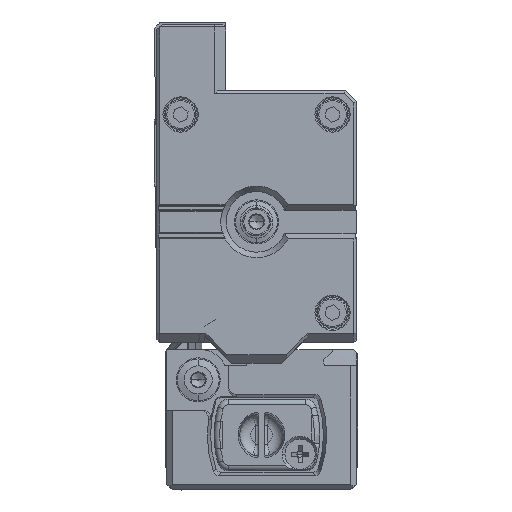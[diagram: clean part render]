
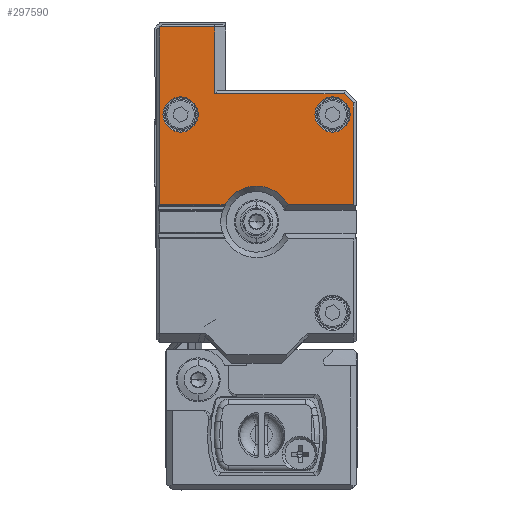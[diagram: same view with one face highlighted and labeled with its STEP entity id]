
A CAD part, left-side view. The second image highlights one B-rep face of the part: STEP entity #297590.
In plain terms, the highlighted planar face has unit normal (-1, 0, 0).
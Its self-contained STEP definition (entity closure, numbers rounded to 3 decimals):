
#291840=CARTESIAN_POINT('',(516.911,-28.8,
-61.394));
#291850=VERTEX_POINT('',#291840);
#291880=CARTESIAN_POINT('',(516.911,-28.8,
0.464));
#291890=DIRECTION('',(0.,0.,1.));
#291900=VECTOR('',#291890,1.);
#291910=LINE('',#291880,#291900);
#291920=CARTESIAN_POINT('',(516.911,-28.8,
-79.876));
#291930=VERTEX_POINT('',#291920);
#291940=EDGE_CURVE('',#291930,#291850,#291910,.T.);
#292530=CARTESIAN_POINT('',(516.911,-54.,
-81.583));
#292540=VERTEX_POINT('',#292530);
#292570=CARTESIAN_POINT('',(516.911,-54.,
-88.233));
#292580=DIRECTION('',(0.,0.,1.));
#292590=VECTOR('',#292580,1.);
#292600=LINE('',#292570,#292590);
#292610=CARTESIAN_POINT('',(516.911,-54.,
-93.683));
#292620=VERTEX_POINT('',#292610);
#292630=EDGE_CURVE('',#292620,#292540,#292600,.T.);
#293830=CARTESIAN_POINT('',(516.911,-30.507,
-81.583));
#293840=VERTEX_POINT('',#293830);
#293870=CARTESIAN_POINT('',(516.911,7.15,
-81.583));
#293880=DIRECTION('',(0.,1.,0.));
#293890=VECTOR('',#293880,1.);
#293900=LINE('',#293870,#293890);
#293910=EDGE_CURVE('',#292540,#293840,#293900,.T.);
#294110=CARTESIAN_POINT('',(516.911,-29.654,
-80.73));
#294120=DIRECTION('',(0.,0.707,
0.707));
#294130=VECTOR('',#294120,1.);
#294140=LINE('',#294110,#294130);
#294150=EDGE_CURVE('',#293840,#291930,#294140,.T.);
#296600=CARTESIAN_POINT('',(516.911,-64.,
-93.683));
#296610=VERTEX_POINT('',#296600);
#296660=CARTESIAN_POINT('',(516.911,7.15,
-93.683));
#296670=DIRECTION('',(0.,1.,0.));
#296680=VECTOR('',#296670,1.);
#296690=LINE('',#296660,#296680);
#296700=EDGE_CURVE('',#296610,#292620,#296690,.T.);
#296820=CARTESIAN_POINT('',(516.911,-51.404,
-48.302));
#296830=DIRECTION('',(-1.,0.,0.));
#296840=DIRECTION('',(0.,0.,1.));
#296850=AXIS2_PLACEMENT_3D('',#296820,#296830,#296840);
#296860=PLANE('',#296850);
#296870=CARTESIAN_POINT('',(516.911,-32.6,
-77.783));
#296880=DIRECTION('',(-1.,0.,0.));
#296890=DIRECTION('',(0.,1.,0.));
#296900=AXIS2_PLACEMENT_3D('',#296870,#296880,#296890);
#296910=CIRCLE('',#296900,3.2);
#296920=CARTESIAN_POINT('',(516.911,-29.4,
-77.783));
#296930=VERTEX_POINT('',#296920);
#296940=CARTESIAN_POINT('',(516.911,-35.8,
-77.783));
#296950=VERTEX_POINT('',#296940);
#296960=EDGE_CURVE('',#296930,#296950,#296910,.T.);
#296970=ORIENTED_EDGE('',*,*,#296960,.F.);
#296980=EDGE_CURVE('',#296950,#296930,#296910,.T.);
#296990=ORIENTED_EDGE('',*,*,#296980,.F.);
#297000=EDGE_LOOP('',(#296990,#296970));
#297010=FACE_BOUND('',#297000,.T.);
#297020=CARTESIAN_POINT('',(516.911,-60.2,
-77.783));
#297030=DIRECTION('',(-1.,0.,0.));
#297040=DIRECTION('',(0.,1.,0.));
#297050=AXIS2_PLACEMENT_3D('',#297020,#297030,#297040);
#297060=CIRCLE('',#297050,3.2);
#297070=CARTESIAN_POINT('',(516.911,-60.2,
-74.583));
#297080=VERTEX_POINT('',#297070);
#297090=CARTESIAN_POINT('',(516.911,-57.,
-77.783));
#297100=VERTEX_POINT('',#297090);
#297110=EDGE_CURVE('',#297080,#297100,#297060,.T.);
#297120=ORIENTED_EDGE('',*,*,#297110,.F.);
#297130=CARTESIAN_POINT('',(516.911,-63.4,
-77.783));
#297140=VERTEX_POINT('',#297130);
#297150=EDGE_CURVE('',#297100,#297140,#297060,.T.);
#297160=ORIENTED_EDGE('',*,*,#297150,.F.);
#297170=EDGE_CURVE('',#297140,#297080,#297060,.T.);
#297180=ORIENTED_EDGE('',*,*,#297170,.F.);
#297190=EDGE_LOOP('',(#297180,#297160,#297120));
#297200=FACE_BOUND('',#297190,.T.);
#297210=ORIENTED_EDGE('',*,*,#296700,.F.);
#297220=ORIENTED_EDGE('',*,*,#292630,.F.);
#297230=ORIENTED_EDGE('',*,*,#293910,.F.);
#297240=ORIENTED_EDGE('',*,*,#294150,.F.);
#297250=ORIENTED_EDGE('',*,*,#291940,.F.);
#297260=CARTESIAN_POINT('',(516.911,7.15,
-61.394));
#297270=DIRECTION('',(0.,1.,0.));
#297280=VECTOR('',#297270,1.);
#297290=LINE('',#297260,#297280);
#297300=CARTESIAN_POINT('',(516.911,-40.681,
-61.394));
#297310=VERTEX_POINT('',#297300);
#297320=EDGE_CURVE('',#297310,#291850,#297290,.T.);
#297330=ORIENTED_EDGE('',*,*,#297320,.T.);
#297340=CARTESIAN_POINT('',(516.911,-46.4,
-58.283));
#297350=DIRECTION('',(-1.,0.,0.));
#297360=DIRECTION('',(0.,-1.,0.));
#297370=AXIS2_PLACEMENT_3D('',#297340,#297350,#297360);
#297380=CIRCLE('',#297370,6.51);
#297390=CARTESIAN_POINT('',(516.911,-52.125,
-61.383));
#297400=VERTEX_POINT('',#297390);
#297410=EDGE_CURVE('',#297310,#297400,#297380,.T.);
#297420=ORIENTED_EDGE('',*,*,#297410,.F.);
#297430=CARTESIAN_POINT('',(516.911,7.15,
-61.383));
#297440=DIRECTION('',(0.,-1.,0.));
#297450=VECTOR('',#297440,1.);
#297460=LINE('',#297430,#297450);
#297470=CARTESIAN_POINT('',(516.911,-64.,
-61.383));
#297480=VERTEX_POINT('',#297470);
#297490=EDGE_CURVE('',#297400,#297480,#297460,.T.);
#297500=ORIENTED_EDGE('',*,*,#297490,.F.);
#297510=CARTESIAN_POINT('',(516.911,-64.,
0.464));
#297520=DIRECTION('',(0.,0.,1.));
#297530=VECTOR('',#297520,1.);
#297540=LINE('',#297510,#297530);
#297550=EDGE_CURVE('',#296610,#297480,#297540,.T.);
#297560=ORIENTED_EDGE('',*,*,#297550,.T.);
#297570=EDGE_LOOP('',(#297560,#297500,#297420,#297330,#297250,#297240,
#297230,#297220,#297210));
#297580=FACE_OUTER_BOUND('',#297570,.T.);
#297590=ADVANCED_FACE('',(#297010,#297200,#297580),#296860,.T.);
